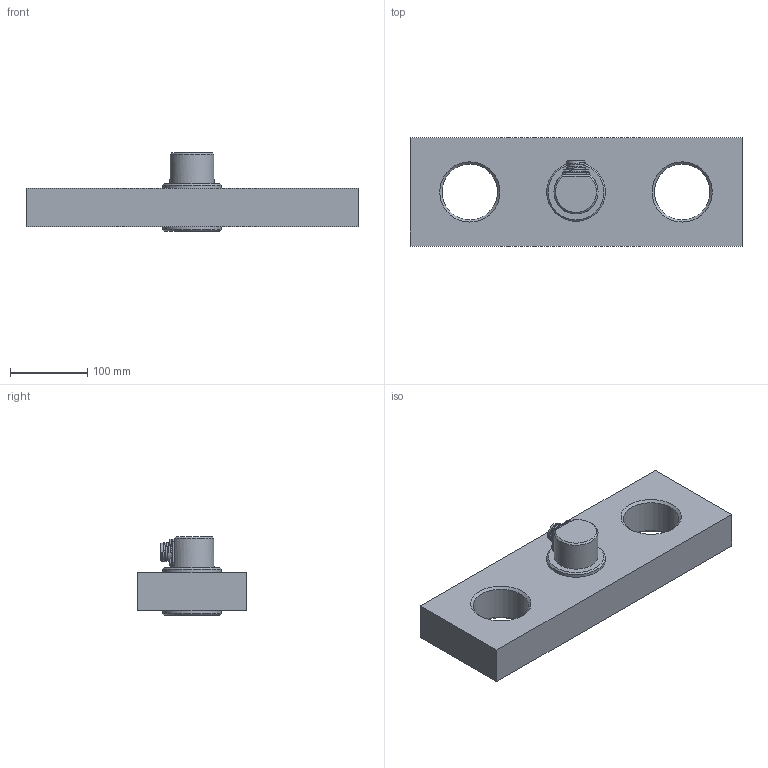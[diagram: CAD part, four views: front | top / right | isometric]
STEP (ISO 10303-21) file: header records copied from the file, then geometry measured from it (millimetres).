
FILE_DESCRIPTION(/* description */ ('Alibre Inc.'),/* implementation_level */ '2;1');
FILE_NAME(/* name */ 'export0',/* time_stamp */ '2018-02-08T09:11:10+00:00',/* author */ (''),/* organization */ (''),/* preprocessor_version */ 'ST-DEVELOPER v14',/* originating_system */ 'Alibre',/* authorisation */ '');
FILE_SCHEMA (('CONFIG_CONTROL_DESIGN'));
Length unit declared in the file: centimetre
Products named in the file (9): ID_1; ID_2; ID_3; ID_4; ID_5; ID_6; ID_7
Bounding box: 430 x 140 x 102 mm (x, y, z)
Volume: 2643213.7 mm3; surface area: 230354 mm2
Topology: 23 solids, 23 shells, 624 faces, 1479 edges, 958 vertices
Faces by surface type: plane 331, cylinder 132, bspline 78, cone 76, sphere 6, torus 1
Full cylindrical faces by diameter (mm): 1.448 x6, 1.473 x6, 1.55 x6, 1.613 x6, 2.134 x6, 2.565 x12, 2.59 x12, 3.6 x4, 3.9 x4, 4.83 x4, 7.7 x4, 13.54 x1, 13.65 x1, 13.73 x1, 15.16 x1, 15.2 x1, 15.35 x1, 15.67 x1, 16.12 x1, 17.05 x1, 17.91 x1, 18.6 x2, 20.114 x1, 22.73 x2, 25.05 x3, 25.4 x1, 29.45 x1, 29.65 x2, 30 x1, 54.5 x2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
Entity records: 17089 total; most frequent: CARTESIAN_POINT 4716, ORIENTED_EDGE 2246, DIRECTION 1905, EDGE_CURVE 1123, VERTEX_POINT 814, AXIS2_PLACEMENT_3D 791, FACE_BOUND 777, EDGE_LOOP 776
